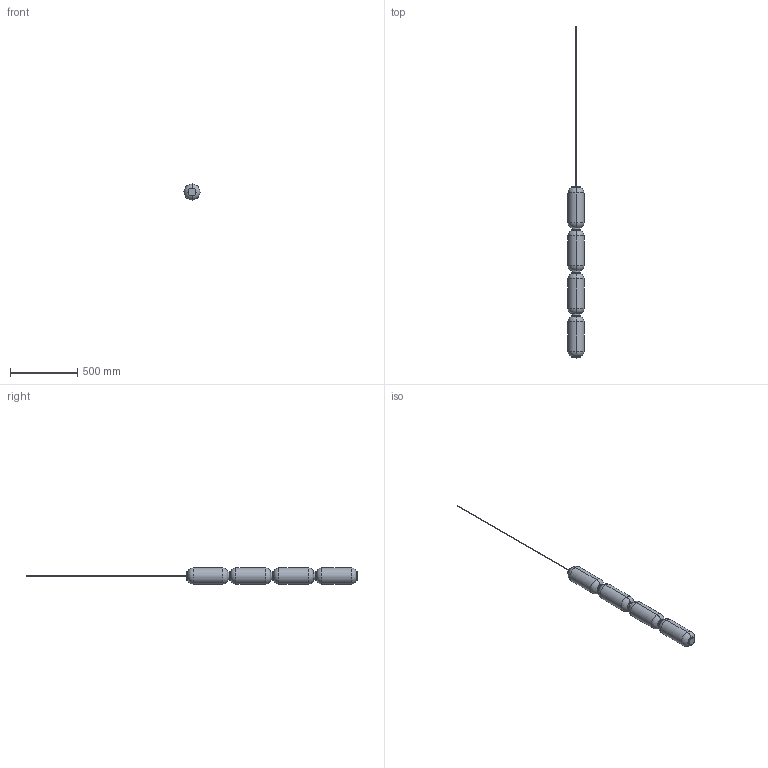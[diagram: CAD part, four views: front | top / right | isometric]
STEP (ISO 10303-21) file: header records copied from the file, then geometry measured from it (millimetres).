
FILE_DESCRIPTION (( 'STEP AP214' ), '1' );
FILE_NAME ('ELMA_C1312-4.STEP', '2026-09-22T14:05:25', ( '' ), ( '' ), 'SwSTEP 2.0', 'SolidWorks 2023', '' );
FILE_SCHEMA (( 'AUTOMOTIVE_DESIGN' ));
Length unit declared in the file: millimetre
Products named in the file (1): ELMA_C1312-4
Bounding box: 120 x 2475 x 120 mm (x, y, z)
Volume: 4577981.3 mm3; surface area: 1025712.9 mm2
Topology: 14 solids, 14 shells, 123 faces, 218 edges, 124 vertices
Faces by surface type: torus 48, cylinder 46, plane 29
Entity records: 3132 total; most frequent: DIRECTION 638, CARTESIAN_POINT 466, ORIENTED_EDGE 436, AXIS2_PLACEMENT_3D 296, EDGE_CURVE 218, CIRCLE 172, VERTEX_POINT 124, EDGE_LOOP 124
